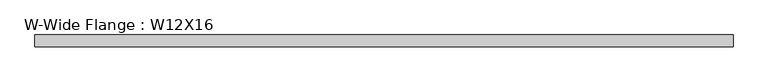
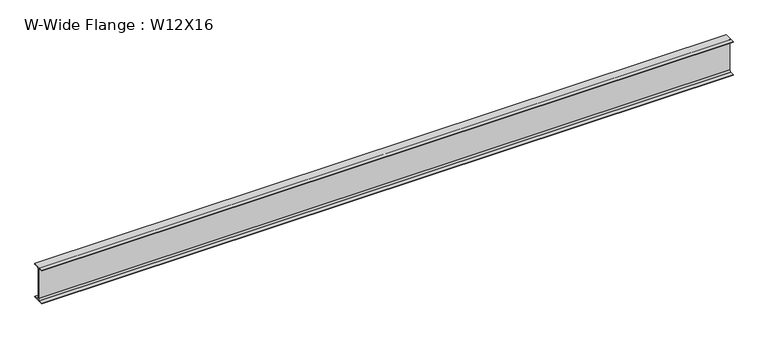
"""IFC4 building model written with IfcOpenShell, lengths in millimetres: beam geometry, W-Wide Flange : W12X16."""

from ifc_helpers import new_model, si_unit, point, frame, frame_2d, origin, place, context, project, spatial, polyline, circle_curve, trimmed, segment, composite_curve, outline, extrude, source, transform, mapped, element, save


def w_wide_flange_w12x16_4f3b8e2c(model_context):
    return source(origin(), model_context, "Body", "SweptSolid", [
        extrude(outline(composite_curve([segment(polyline([(50.673, -145.669), (50.673, -152.4), (-50.673, -152.4), (-50.673, -145.669), (-16.7005, -145.669)]), True, "CONTINUOUS"), segment(trimmed(circle_curve(frame_2d((-16.7005, -131.7625)), 13.9065), [point((-16.7005, -145.669))], [point((-2.794, -131.7625))], True, "CARTESIAN"), True, "CONTINUOUS"), segment(polyline([(-2.794, -131.7625), (-2.794, 131.7625)]), True, "CONTINUOUS"), segment(trimmed(circle_curve(frame_2d((-16.7005, 131.7625)), 13.9065), [point((-2.794, 131.7625))], [point((-16.7005, 145.669))], True, "CARTESIAN"), True, "CONTINUOUS"), segment(polyline([(-16.7005, 145.669), (-50.673, 145.669), (-50.673, 152.4), (50.673, 152.4), (50.673, 145.669), (16.7005, 145.669)]), True, "CONTINUOUS"), segment(trimmed(circle_curve(frame_2d((16.7005, 131.7625)), 13.9065), [point((16.7005, 145.669))], [point((2.794, 131.7625))], True, "CARTESIAN"), True, "CONTINUOUS"), segment(polyline([(2.794, 131.7625), (2.794, -131.7625)]), True, "CONTINUOUS"), segment(trimmed(circle_curve(frame_2d((16.7005, -131.7625)), 13.9065), [point((2.794, -131.7625))], [point((16.7005, -145.669))], True, "CARTESIAN"), True, "CONTINUOUS"), segment(polyline([(16.7005, -145.669), (50.673, -145.669)]), True, "CONTINUOUS")], self_intersect=False)), frame((-2965.069, 0.0, 0.0), z_axis=(1.0, 0.0, 0.0), x_axis=(0.0, 1.0, 0.0)), (0.0, 0.0, 1.0), 5930.138),
    ])


if __name__ == "__main__":
    model = new_model("IFC4")
    model_context = context("Model", 3, world=origin())
    ifc_project = project(units=[si_unit("LENGTHUNIT", "METRE", prefix="MILLI")], contexts=[model_context])
    site = spatial("IfcSite", under=ifc_project)
    building = spatial("IfcBuilding", under=site)
    placement = place(None, origin())
    w_wide_flange_w12x16_shape = w_wide_flange_w12x16_4f3b8e2c(model_context)
    element("IfcBeam", 1, ObjectType="W-Wide Flange : W12X16", at=placement, inside=building, context=model_context, shape_type="MappedRepresentation", body=[
        mapped(w_wide_flange_w12x16_shape, transform((0.0, 0.0, 0.0), x_axis=(1.0, 0.0, 0.0), y_axis=(0.0, 1.0, 0.0), z_axis=(0.0, 0.0, 1.0))),
    ])
    save(model, "model.ifc")
